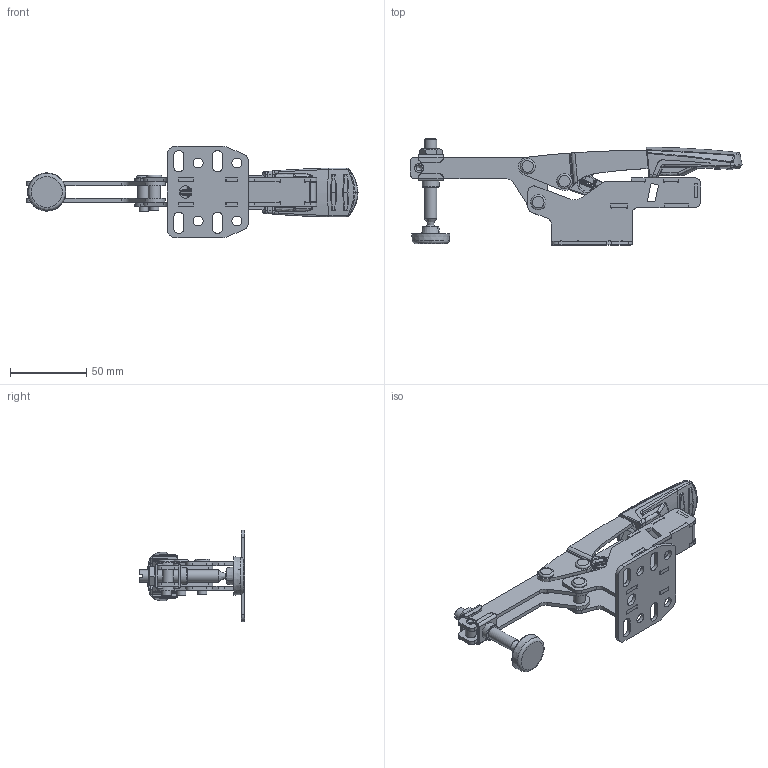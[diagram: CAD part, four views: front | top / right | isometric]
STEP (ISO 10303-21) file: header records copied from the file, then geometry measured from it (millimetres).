
FILE_DESCRIPTION( ('This file contains a STEP AP42 implementation' ,'as created by ZW3D STEP Interface translator.') ,'2;1' );
FILE_NAME( 'STC-HH70 geschlossen.stp' ,'23 2 2. 849 7', (''), ('ZWCAD Software Co.'), 'Version 1.0', 'ZW3D to STEP translator', '' );
FILE_SCHEMA(('AUTOMOTIVE_DESIGN { 1 0 10303 214 1 1 1 1 }'));
Length unit declared in the file: millimetre
Products named in the file (1): 0
Bounding box: 217.71 x 69.48 x 60 mm (x, y, z)
Volume: 74088.5 mm3; surface area: 66281.6 mm2
Topology: 35 solids, 35 shells, 1194 faces, 3057 edges, 2090 vertices
Faces by surface type: plane 437, bspline 346, cylinder 300, cone 49, torus 49, sphere 13
Full cylindrical faces by diameter (mm): 1 x2, 1.5 x2, 3 x2, 3.3 x3, 3.909 x1, 4 x3, 5 x4, 6 x12, 6.05 x6, 6.2 x4, 6.5 x4, 6.8 x5, 7 x1, 7.5 x2, 8 x5, 8.179 x1, 9 x1, 9.335 x1, 9.4 x1, 10 x3, 11.113 x1, 20.8 x1, 22.7 x1
Entity records: 91155 total; most frequent: CARTESIAN_POINT 64030, ORIENTED_EDGE 5776, DIRECTION 4378, EDGE_CURVE 2888, VERTEX_POINT 1802, AXIS2_PLACEMENT_3D 1496, VECTOR 1386, LINE 1386
